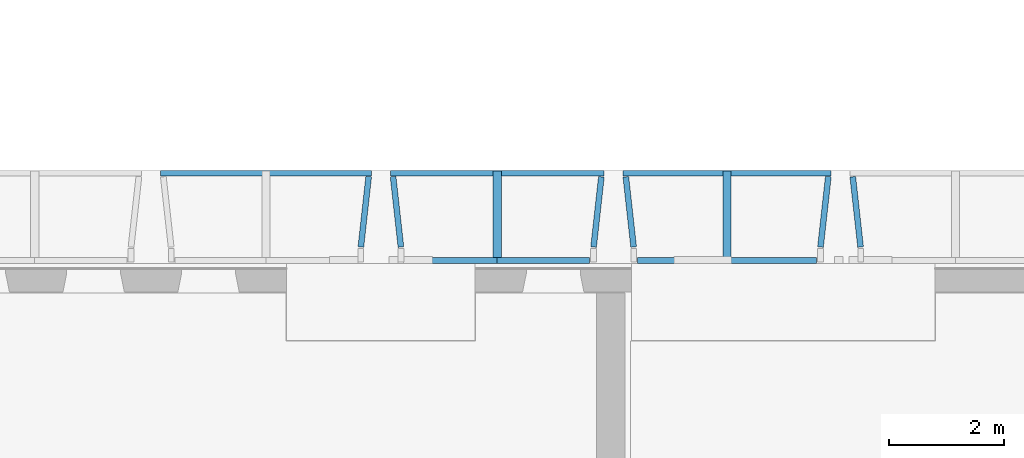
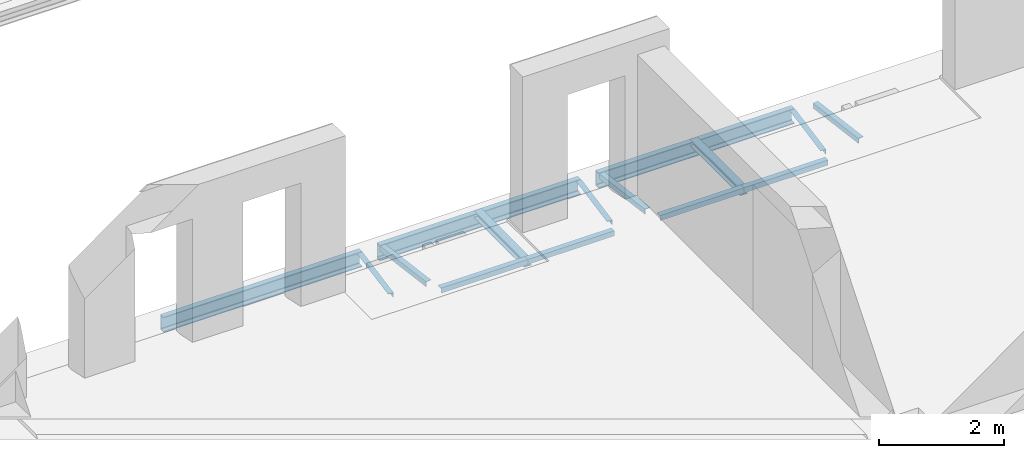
# One storey, part 9 of 27: 15 beams.
"""IFC2X3 building model written with IfcOpenShell, lengths in millimetres."""

from ifc_helpers import new_model, entity, si_unit, converted_unit, derived_unit, direction, frame, frame_2d, origin, place, context, subcontext, project, spatial, polyline, circle_curve, parameter, trimmed, segment, composite_curve, i_section, outline, extrude, material, type_object, element, save


model = new_model("IFC2X3")

# Units and contexts
model_context = context("Model", 3, precision=0.01, world=origin(), true_north=direction((6.12303176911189e-17, 1.0)))
body_context = subcontext(model_context, "Body", "Model", "MODEL_VIEW")
ifc_project = project(units=[si_unit("LENGTHUNIT", "METRE", prefix="MILLI"), si_unit("AREAUNIT", "SQUARE_METRE"), si_unit("VOLUMEUNIT", "CUBIC_METRE"), converted_unit("PLANEANGLEUNIT", "DEGREE", entity("IfcRatioMeasure", 0.0174532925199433), si_unit("PLANEANGLEUNIT", "RADIAN"), dimensions=[0, 0, 0, 0, 0, 0, 0]), si_unit("MASSUNIT", "GRAM", prefix="KILO"), derived_unit("MASSDENSITYUNIT", [(si_unit("MASSUNIT", "GRAM", prefix="KILO"), 1), (si_unit("LENGTHUNIT", "METRE"), -3)]), si_unit("TIMEUNIT", "SECOND"), si_unit("FREQUENCYUNIT", "HERTZ"), si_unit("THERMODYNAMICTEMPERATUREUNIT", "DEGREE_CELSIUS"), derived_unit("THERMALTRANSMITTANCEUNIT", [(si_unit("MASSUNIT", "GRAM", prefix="KILO"), 1), (si_unit("THERMODYNAMICTEMPERATUREUNIT", "KELVIN"), -1), (si_unit("TIMEUNIT", "SECOND"), -3)]), derived_unit("VOLUMETRICFLOWRATEUNIT", [(si_unit("LENGTHUNIT", "METRE"), 3), (si_unit("TIMEUNIT", "SECOND"), -1)]), si_unit("ELECTRICCURRENTUNIT", "AMPERE"), si_unit("ELECTRICVOLTAGEUNIT", "VOLT"), si_unit("POWERUNIT", "WATT"), si_unit("FORCEUNIT", "NEWTON", prefix="KILO"), si_unit("ILLUMINANCEUNIT", "LUX"), si_unit("LUMINOUSFLUXUNIT", "LUMEN"), si_unit("LUMINOUSINTENSITYUNIT", "CANDELA"), derived_unit("USERDEFINED", [(si_unit("MASSUNIT", "GRAM", prefix="KILO"), -1), (si_unit("LENGTHUNIT", "METRE"), -2), (si_unit("TIMEUNIT", "SECOND"), 3), (si_unit("LUMINOUSFLUXUNIT", "LUMEN"), 1)]), derived_unit("LINEARVELOCITYUNIT", [(si_unit("LENGTHUNIT", "METRE"), 1), (si_unit("TIMEUNIT", "SECOND"), -1)]), si_unit("PRESSUREUNIT", "PASCAL"), derived_unit("USERDEFINED", [(si_unit("LENGTHUNIT", "METRE"), -2), (si_unit("MASSUNIT", "GRAM", prefix="KILO"), 1), (si_unit("TIMEUNIT", "SECOND"), -2)])], contexts=[model_context])

# Site, building, storey
site_placement = place(None, origin())
site = spatial("IfcSite", under=ifc_project, at=site_placement, Name="Default", CompositionType="ELEMENT")
building_placement = place(site_placement, origin())
building = spatial("IfcBuilding", under=site, at=building_placement, Name="niet gebruiken", CompositionType="ELEMENT")
storey_placement = place(building_placement, frame((0.0, 0.0, 18000.0)))
storey = spatial("IfcBuildingStorey", under=building, at=storey_placement, Name="05 vijfde verdieping", CompositionType="ELEMENT", Elevation=18000.0)

# Beams
ifc_material = material(Name="NLRS_h2_staal")
beam_type_1 = type_object("IfcBeamType", Name="NLRS_28.11_SF_WPB_stalen ligger HEA_gen:ligger HEA 140", PredefinedType="BEAM")
beam_1_placement = place(storey_placement, frame((145775.0, 34840.0, -1015.0), z_axis=(0.0, 0.0, 1.0), x_axis=(0.0, -1.0, 0.0)))
element("IfcBeam", 1, at=beam_1_placement, inside=storey, type_object=beam_type_1, material=ifc_material, Name="NLRS_28.11_SF_WPB_stalen ligger HEA_gen:ligger HEA 140", ObjectType="NLRS_28.11_SF_WPB_stalen ligger HEA_gen:ligger HEA 140", context=body_context, shape_type="SweptSolid", body=[
    extrude(i_section(OverallWidth=140.000000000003, OverallDepth=133.0, WebThickness=5.49999999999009, FlangeThickness=8.49999999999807, FilletRadius=11.9999999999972, at=frame_2d((-4.33431068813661e-12, -1.73301373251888e-11), x_axis=(0.0, 1.0))), frame((0.0, 0.0, -66.5000000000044), z_axis=(1.0, 0.0, 0.0), x_axis=(0.0, 0.0, -1.0)), (0.0, 0.0, 1.0), 1610.0),
])
beam_2_placement = place(storey_placement, frame((149775.0, 34840.0, -1015.0), z_axis=(0.0, 0.0, 1.0), x_axis=(0.0, -1.0, 0.0)))
element("IfcBeam", 2, at=beam_2_placement, inside=storey, type_object=beam_type_1, material=ifc_material, Name="NLRS_28.11_SF_WPB_stalen ligger HEA_gen:ligger HEA 140", ObjectType="NLRS_28.11_SF_WPB_stalen ligger HEA_gen:ligger HEA 140", context=body_context, shape_type="SweptSolid", body=[
    extrude(i_section(OverallWidth=140.000000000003, OverallDepth=133.0, WebThickness=5.49999999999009, FlangeThickness=8.49999999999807, FilletRadius=11.9999999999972, at=frame_2d((-4.33431068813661e-12, 0.0), x_axis=(0.0, 1.0))), frame((0.0, 0.0, -66.5000000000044), z_axis=(1.0, 0.0, 0.0), x_axis=(0.0, 0.0, -1.0)), (0.0, 0.0, 1.0), 1610.0),
])
beam_type_2 = type_object("IfcBeamType", Name="NLRS_28.11_SF_WPB_stalen ligger UNP_gen:ligger UNP 300", PredefinedType="BEAM")
beam_3_placement = place(storey_placement, frame((139915.0, 34823.0, -1015.0)))
element("IfcBeam", 3, at=beam_3_placement, inside=storey, type_object=beam_type_2, material=ifc_material, Name="NLRS_28.11_SF_WPB_stalen ligger UNP_gen:ligger UNP 300", ObjectType="NLRS_28.11_SF_WPB_stalen ligger UNP_gen:ligger UNP 300", context=body_context, shape_type="SweptSolid", body=[
    extrude(outline(composite_curve([segment(polyline([(-149.93760274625, -45.3333333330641), (-142.655201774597, -45.3333333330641)]), True, "CONTINUOUS"), segment(trimmed(circle_curve(frame_2d((-142.655201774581, -37.3333333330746), x_axis=(0.0, -1.0)), 7.99999999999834), [parameter(0.0)], [parameter(90.0000000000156)], True, "PARAMETER"), True, "CONTINUOUS"), segment(polyline([(-134.655201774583, -37.3333333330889), (-130.390412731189, 28.6666666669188)]), True, "CONTINUOUS"), segment(trimmed(circle_curve(frame_2d((-114.390412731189, 28.6666666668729), x_axis=(-1.0, 0.0)), 16.0000000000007), [parameter(270.0)], [parameter(0.0)], True, "PARAMETER"), False, "CONTINUOUS"), segment(polyline([(-114.390412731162, 44.6666666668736), (113.875860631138, 44.6666666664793)]), True, "CONTINUOUS"), segment(trimmed(circle_curve(frame_2d((113.875860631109, 28.6666666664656), x_axis=(0.0, 1.0)), 16.0000000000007), [parameter(270.0)], [parameter(0.0)], True, "PARAMETER"), False, "CONTINUOUS"), segment(polyline([(129.87586063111, 28.6666666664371), (135.044959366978, -37.3333333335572)]), True, "CONTINUOUS"), segment(trimmed(circle_curve(frame_2d((143.044959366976, -37.3333333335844), x_axis=(-1.0, 0.0)), 7.99999999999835), [parameter(0.0)], [parameter(90.0000000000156)], True, "PARAMETER"), True, "CONTINUOUS"), segment(polyline([(143.044959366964, -45.3333333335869), (150.062397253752, -45.3333333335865)]), True, "CONTINUOUS"), segment(polyline([(150.062397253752, -45.3333333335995), (150.06239725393, 54.6666666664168)]), True, "CONTINUOUS"), segment(polyline([(150.06239725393, 54.6666666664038), (-149.937602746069, 54.6666666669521)]), True, "CONTINUOUS"), segment(polyline([(-149.937602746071, 54.6666666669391), (-149.93760274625, -45.3333333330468)]), True, "CONTINUOUS")], self_intersect=False)), frame((0.0, -27.6666666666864, -149.937602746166), z_axis=(1.0, 0.0, 0.0), x_axis=(0.0, 0.0, -1.0)), (0.0, 0.0, 1.0), 3673.03330011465),
])
beam_4_placement = place(storey_placement, frame((143915.0, 34823.0, -1015.0)))
element("IfcBeam", 4, at=beam_4_placement, inside=storey, type_object=beam_type_2, material=ifc_material, Name="NLRS_28.11_SF_WPB_stalen ligger UNP_gen:ligger UNP 300", ObjectType="NLRS_28.11_SF_WPB_stalen ligger UNP_gen:ligger UNP 300", context=body_context, shape_type="SweptSolid", body=[
    extrude(outline(composite_curve([segment(polyline([(-149.937602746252, -45.3333333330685), (-142.655201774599, -45.3333333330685)]), True, "CONTINUOUS"), segment(trimmed(circle_curve(frame_2d((-142.655201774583, -37.333333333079), x_axis=(0.0, -1.0)), 7.99999999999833), [parameter(0.0)], [parameter(90.0000000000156)], True, "PARAMETER"), True, "CONTINUOUS"), segment(polyline([(-134.655201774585, -37.3333333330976), (-130.390412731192, 28.6666666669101)]), True, "CONTINUOUS"), segment(trimmed(circle_curve(frame_2d((-114.390412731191, 28.6666666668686), x_axis=(-1.0, 0.0)), 16.0000000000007), [parameter(270.0)], [parameter(0.0)], True, "PARAMETER"), False, "CONTINUOUS"), segment(polyline([(-114.390412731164, 44.6666666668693), (113.875860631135, 44.666666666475)]), True, "CONTINUOUS"), segment(trimmed(circle_curve(frame_2d((113.875860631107, 28.6666666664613), x_axis=(0.0, 1.0)), 16.0000000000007), [parameter(270.0)], [parameter(0.0)], True, "PARAMETER"), False, "CONTINUOUS"), segment(polyline([(129.875860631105, 28.6666666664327), (135.044959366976, -37.3333333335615)]), True, "CONTINUOUS"), segment(trimmed(circle_curve(frame_2d((143.044959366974, -37.3333333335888), x_axis=(-1.0, 0.0)), 7.99999999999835), [parameter(0.0)], [parameter(90.0000000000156)], True, "PARAMETER"), True, "CONTINUOUS"), segment(polyline([(143.044959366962, -45.3333333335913), (150.062397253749, -45.3333333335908)]), True, "CONTINUOUS"), segment(polyline([(150.062397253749, -45.3333333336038), (150.062397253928, 54.6666666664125)]), True, "CONTINUOUS"), segment(polyline([(150.062397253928, 54.6666666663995), (-149.937602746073, 54.6666666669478)]), True, "CONTINUOUS"), segment(polyline([(-149.937602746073, 54.6666666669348), (-149.937602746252, -45.3333333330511)]), True, "CONTINUOUS")], self_intersect=False)), frame((0.0, -27.666666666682, -149.937602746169), z_axis=(1.0, 0.0, 0.0), x_axis=(0.0, 0.0, -1.0)), (0.0, 0.0, 1.0), 3720.0),
])
beam_5_placement = place(storey_placement, frame((147965.0, 34823.0, -1015.0)))
element("IfcBeam", 5, at=beam_5_placement, inside=storey, type_object=beam_type_2, material=ifc_material, Name="NLRS_28.11_SF_WPB_stalen ligger UNP_gen:ligger UNP 300", ObjectType="NLRS_28.11_SF_WPB_stalen ligger UNP_gen:ligger UNP 300", context=body_context, shape_type="SweptSolid", body=[
    extrude(outline(composite_curve([segment(polyline([(-149.93760274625, -45.3333333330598), (-142.655201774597, -45.3333333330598)]), True, "CONTINUOUS"), segment(trimmed(circle_curve(frame_2d((-142.655201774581, -37.3333333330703), x_axis=(0.0, -1.0)), 7.99999999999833), [parameter(0.0)], [parameter(90.0000000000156)], True, "PARAMETER"), True, "CONTINUOUS"), segment(polyline([(-134.655201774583, -37.3333333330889), (-130.390412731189, 28.6666666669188)]), True, "CONTINUOUS"), segment(trimmed(circle_curve(frame_2d((-114.390412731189, 28.6666666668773), x_axis=(-1.0, 0.0)), 16.0000000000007), [parameter(270.0)], [parameter(0.0)], True, "PARAMETER"), False, "CONTINUOUS"), segment(polyline([(-114.390412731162, 44.666666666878), (113.875860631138, 44.6666666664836)]), True, "CONTINUOUS"), segment(trimmed(circle_curve(frame_2d((113.875860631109, 28.6666666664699), x_axis=(0.0, 1.0)), 16.0000000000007), [parameter(270.0)], [parameter(0.0)], True, "PARAMETER"), False, "CONTINUOUS"), segment(polyline([(129.875860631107, 28.6666666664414), (135.044959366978, -37.3333333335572)]), True, "CONTINUOUS"), segment(trimmed(circle_curve(frame_2d((143.044959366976, -37.3333333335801), x_axis=(-1.0, 0.0)), 7.99999999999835), [parameter(0.0)], [parameter(90.0000000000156)], True, "PARAMETER"), True, "CONTINUOUS"), segment(polyline([(143.044959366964, -45.3333333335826), (150.062397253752, -45.3333333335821)]), True, "CONTINUOUS"), segment(polyline([(150.062397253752, -45.3333333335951), (150.06239725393, 54.6666666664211)]), True, "CONTINUOUS"), segment(polyline([(150.06239725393, 54.6666666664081), (-149.937602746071, 54.6666666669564)]), True, "CONTINUOUS"), segment(polyline([(-149.937602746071, 54.6666666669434), (-149.93760274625, -45.3333333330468)]), True, "CONTINUOUS")], self_intersect=False)), frame((0.0, -27.6666666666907, -149.937602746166), z_axis=(1.0, 0.0, 0.0), x_axis=(0.0, 0.0, -1.0)), (0.0, 0.0, 1.0), 3620.00000000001),
])
beam_type_3 = type_object("IfcBeamType", Name="NLRS_28.11_SF_WPB_stalen ligger hoekprofiel gelijkzijdig_gen:ligger gelijzijdig hoekprofiel LEQU_100x100x10", PredefinedType="BEAM")
beam_6_placement = place(storey_placement, frame((143487.912001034, 34746.746523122, -1015.0), z_axis=(0.0, 0.0, 1.0), x_axis=(-0.110431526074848, -0.993883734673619, 0.0)))
element("IfcBeam", 6, at=beam_6_placement, inside=storey, type_object=beam_type_3, material=ifc_material, Name="NLRS_28.11_SF_WPB_stalen ligger hoekprofiel gelijkzijdig_gen:ligger gelijzijdig hoekprofiel LEQU_100x100x10", ObjectType="NLRS_28.11_SF_WPB_stalen ligger hoekprofiel gelijkzijdig_gen:ligger gelijzijdig hoekprofiel LEQU_100x100x10", context=body_context, shape_type="SweptSolid", body=[
    extrude(outline(composite_curve([segment(polyline([(-37.7777777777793, -62.222222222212), (-33.777777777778, -62.222222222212)]), True, "CONTINUOUS"), segment(trimmed(circle_curve(frame_2d((-33.7777777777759, -56.2222222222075), x_axis=(0.0, -1.0)), 5.99999999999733), [parameter(0.0)], [parameter(90.0000000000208)], True, "PARAMETER"), True, "CONTINUOUS"), segment(polyline([(-27.7777777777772, -56.2222222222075), (-27.7777777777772, 15.7777777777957)]), True, "CONTINUOUS"), segment(trimmed(circle_curve(frame_2d((-15.7777777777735, 15.7777777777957), x_axis=(-1.0, 0.0)), 12.000000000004), [parameter(270.000000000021)], [parameter(0.0)], True, "PARAMETER"), False, "CONTINUOUS"), segment(polyline([(-15.7777777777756, 27.7777777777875), (56.2222222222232, 27.7777777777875)]), True, "CONTINUOUS"), segment(trimmed(circle_curve(frame_2d((56.2222222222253, 33.7777777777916), x_axis=(0.0, -1.0)), 5.99999999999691), [parameter(0.0)], [parameter(90.0000000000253)], True, "PARAMETER"), True, "CONTINUOUS"), segment(polyline([(62.2222222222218, 33.7777777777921), (62.2222222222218, 37.7777777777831)]), True, "CONTINUOUS"), segment(polyline([(62.222222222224, 37.7777777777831), (-37.7777777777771, 37.7777777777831)]), True, "CONTINUOUS"), segment(polyline([(-37.7777777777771, 37.7777777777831), (-37.7777777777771, -62.222222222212)]), True, "CONTINUOUS")], self_intersect=False)), frame((0.0, 62.2222222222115, -37.7777777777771), z_axis=(1.0, 0.0, 0.0), x_axis=(0.0, 0.0, -1.0)), (0.0, 0.0, 1.0), 1235.00000000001),
])
beam_7_placement = place(storey_placement, frame((144170.0, 33330.0, -1015.0)))
element("IfcBeam", 7, at=beam_7_placement, inside=storey, type_object=beam_type_3, material=ifc_material, Name="NLRS_28.11_SF_WPB_stalen ligger hoekprofiel gelijkzijdig_gen:ligger gelijzijdig hoekprofiel LEQU_100x100x10", ObjectType="NLRS_28.11_SF_WPB_stalen ligger hoekprofiel gelijkzijdig_gen:ligger gelijzijdig hoekprofiel LEQU_100x100x10", context=body_context, shape_type="SweptSolid", body=[
    extrude(outline(composite_curve([segment(polyline([(-37.7777777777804, -37.777777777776), (62.2222222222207, -37.777777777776)]), True, "CONTINUOUS"), segment(polyline([(62.2222222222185, -37.7777777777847), (62.2222222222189, -33.7777777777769)]), True, "CONTINUOUS"), segment(trimmed(circle_curve(frame_2d((56.2222222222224, -33.7777777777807), x_axis=(1.0, 0.0)), 5.99999999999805), [parameter(0.0)], [parameter(90.0000000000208)], True, "PARAMETER"), True, "CONTINUOUS"), segment(polyline([(56.2222222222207, -27.7777777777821), (-15.777777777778, -27.7777777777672)]), True, "CONTINUOUS"), segment(trimmed(circle_curve(frame_2d((-15.7777777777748, -15.7777777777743), x_axis=(0.0, -1.0)), 12.0000000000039), [parameter(270.000000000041)], [parameter(0.0)], True, "PARAMETER"), False, "CONTINUOUS"), segment(polyline([(-27.7777777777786, -15.7777777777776), (-27.7777777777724, 56.2222222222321)]), True, "CONTINUOUS"), segment(trimmed(circle_curve(frame_2d((-33.777777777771, 56.2222222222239), x_axis=(1.0, 0.0)), 5.99999999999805), [parameter(0.0)], [parameter(90.0000000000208)], True, "PARAMETER"), True, "CONTINUOUS"), segment(polyline([(-33.7777777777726, 62.2222222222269), (-37.7777777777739, 62.2222222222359)]), True, "CONTINUOUS"), segment(polyline([(-37.7777777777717, 62.2222222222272), (-37.7777777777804, -37.777777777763)]), True, "CONTINUOUS")], self_intersect=False)), frame((0.0, -62.2222222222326, -37.7777777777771), z_axis=(1.0, 0.0, 0.0), x_axis=(0.0, 0.0, -1.0)), (0.0, 0.0, 1.0), 1604.99999939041),
])
beam_8_placement = place(storey_placement, frame((144012.087998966, 34746.746523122, -1015.0), z_axis=(0.0, 0.0, 1.0), x_axis=(0.110431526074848, -0.993883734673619, 0.0)))
element("IfcBeam", 8, at=beam_8_placement, inside=storey, type_object=beam_type_3, material=ifc_material, Name="NLRS_28.11_SF_WPB_stalen ligger hoekprofiel gelijkzijdig_gen:ligger gelijzijdig hoekprofiel LEQU_100x100x10", ObjectType="NLRS_28.11_SF_WPB_stalen ligger hoekprofiel gelijkzijdig_gen:ligger gelijzijdig hoekprofiel LEQU_100x100x10", context=body_context, shape_type="SweptSolid", body=[
    extrude(outline(composite_curve([segment(polyline([(-37.7777777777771, -37.7777777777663), (62.222222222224, -37.7777777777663)]), True, "CONTINUOUS"), segment(polyline([(62.2222222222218, -37.7777777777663), (62.2222222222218, -33.7777777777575)]), True, "CONTINUOUS"), segment(trimmed(circle_curve(frame_2d((56.2222222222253, -33.7777777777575), x_axis=(1.0, 0.0)), 5.99999999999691), [parameter(0.0)], [parameter(90.0000000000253)], True, "PARAMETER"), True, "CONTINUOUS"), segment(polyline([(56.2222222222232, -27.7777777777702), (-15.7777777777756, -27.7777777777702)]), True, "CONTINUOUS"), segment(trimmed(circle_curve(frame_2d((-15.7777777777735, -15.777777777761), x_axis=(0.0, -1.0)), 12.000000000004), [parameter(270.000000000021)], [parameter(0.0)], True, "PARAMETER"), False, "CONTINUOUS"), segment(polyline([(-27.7777777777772, -15.777777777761), (-27.7777777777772, 56.2222222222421)]), True, "CONTINUOUS"), segment(trimmed(circle_curve(frame_2d((-33.7777777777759, 56.2222222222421), x_axis=(1.0, 0.0)), 5.99999999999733), [parameter(0.0)], [parameter(90.0000000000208)], True, "PARAMETER"), True, "CONTINUOUS"), segment(polyline([(-33.777777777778, 62.2222222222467), (-37.7777777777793, 62.2222222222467)]), True, "CONTINUOUS"), segment(polyline([(-37.7777777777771, 62.2222222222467), (-37.7777777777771, -37.7777777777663)]), True, "CONTINUOUS")], self_intersect=False)), frame((0.0, -62.2222222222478, -37.7777777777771), z_axis=(1.0, 0.0, 0.0), x_axis=(0.0, 0.0, -1.0)), (0.0, 0.0, 1.0), 1235.00000000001),
])
beam_9_placement = place(storey_placement, frame((147537.359843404, 34741.7771044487, -1015.0), z_axis=(0.0, 0.0, 1.0), x_axis=(-0.110431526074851, -0.993883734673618, 0.0)))
element("IfcBeam", 9, at=beam_9_placement, inside=storey, type_object=beam_type_3, material=ifc_material, Name="NLRS_28.11_SF_WPB_stalen ligger hoekprofiel gelijkzijdig_gen:ligger gelijzijdig hoekprofiel LEQU_100x100x10", ObjectType="NLRS_28.11_SF_WPB_stalen ligger hoekprofiel gelijkzijdig_gen:ligger gelijzijdig hoekprofiel LEQU_100x100x10", context=body_context, shape_type="SweptSolid", body=[
    extrude(outline(composite_curve([segment(polyline([(-37.7777777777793, -62.2222222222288), (-33.777777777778, -62.2222222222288)]), True, "CONTINUOUS"), segment(trimmed(circle_curve(frame_2d((-33.7777777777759, -56.2222222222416), x_axis=(0.0, -1.0)), 5.99999999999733), [parameter(0.0)], [parameter(90.0000000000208)], True, "PARAMETER"), True, "CONTINUOUS"), segment(polyline([(-27.7777777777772, -56.2222222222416), (-27.7777777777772, 15.7777777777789)]), True, "CONTINUOUS"), segment(trimmed(circle_curve(frame_2d((-15.7777777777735, 15.7777777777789), x_axis=(-1.0, 0.0)), 12.0000000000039), [parameter(270.000000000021)], [parameter(0.0)], True, "PARAMETER"), False, "CONTINUOUS"), segment(polyline([(-15.7777777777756, 27.7777777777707), (56.2222222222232, 27.7777777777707)]), True, "CONTINUOUS"), segment(trimmed(circle_curve(frame_2d((56.2222222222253, 33.7777777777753), x_axis=(0.0, -1.0)), 5.99999999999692), [parameter(0.0)], [parameter(90.0000000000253)], True, "PARAMETER"), True, "CONTINUOUS"), segment(polyline([(62.2222222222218, 33.7777777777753), (62.2222222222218, 37.7777777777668)]), True, "CONTINUOUS"), segment(polyline([(62.222222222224, 37.7777777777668), (-37.7777777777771, 37.7777777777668)]), True, "CONTINUOUS"), segment(polyline([(-37.7777777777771, 37.7777777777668), (-37.7777777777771, -62.2222222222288)]), True, "CONTINUOUS")], self_intersect=False)), frame((0.0, 62.222222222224, -37.7777777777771), z_axis=(1.0, 0.0, 0.0), x_axis=(0.0, 0.0, -1.0)), (0.0, 0.0, 1.0), 1230.0),
])
beam_10_placement = place(storey_placement, frame((145775.0, 33330.0, -1015.0)))
element("IfcBeam", 10, at=beam_10_placement, inside=storey, type_object=beam_type_3, material=ifc_material, Name="NLRS_28.11_SF_WPB_stalen ligger hoekprofiel gelijkzijdig_gen:ligger gelijzijdig hoekprofiel LEQU_100x100x10", ObjectType="NLRS_28.11_SF_WPB_stalen ligger hoekprofiel gelijkzijdig_gen:ligger gelijzijdig hoekprofiel LEQU_100x100x10", context=body_context, shape_type="SweptSolid", body=[
    extrude(outline(composite_curve([segment(polyline([(-37.7777777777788, -37.7777777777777), (62.2222222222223, -37.7777777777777)]), True, "CONTINUOUS"), segment(polyline([(62.2222222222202, -37.777777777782), (62.2222222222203, -33.7777777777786)]), True, "CONTINUOUS"), segment(trimmed(circle_curve(frame_2d((56.2222222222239, -33.7777777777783), x_axis=(1.0, 0.0)), 5.99999999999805), [parameter(0.0)], [parameter(90.0000000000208)], True, "PARAMETER"), True, "CONTINUOUS"), segment(polyline([(56.222222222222, -27.7777777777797), (-15.7777777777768, -27.7777777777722)]), True, "CONTINUOUS"), segment(trimmed(circle_curve(frame_2d((-15.7777777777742, -15.7777777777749), x_axis=(0.0, -1.0)), 12.0000000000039), [parameter(270.000000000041)], [parameter(0.0)], True, "PARAMETER"), False, "CONTINUOUS"), segment(polyline([(-27.7777777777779, -15.7777777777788), (-27.7777777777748, 56.2222222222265)]), True, "CONTINUOUS"), segment(trimmed(circle_curve(frame_2d((-33.7777777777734, 56.2222222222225), x_axis=(1.0, 0.0)), 5.99999999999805), [parameter(0.0)], [parameter(90.0000000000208)], True, "PARAMETER"), True, "CONTINUOUS"), segment(polyline([(-33.7777777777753, 62.2222222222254), (-37.7777777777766, 62.2222222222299)]), True, "CONTINUOUS"), segment(polyline([(-37.7777777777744, 62.2222222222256), (-37.7777777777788, -37.777777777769)]), True, "CONTINUOUS")], self_intersect=False)), frame((6.09590401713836e-07, -62.2222222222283, -37.7777777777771), z_axis=(1.0, 0.0, 0.0), x_axis=(0.0, 0.0, -1.0)), (0.0, 0.0, 1.0), 1604.99999939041),
])
beam_11_placement = place(storey_placement, frame((152012.640156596, 34741.7771044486, -1015.0), z_axis=(0.0, 0.0, 1.0), x_axis=(0.110431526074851, -0.993883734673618, 0.0)))
element("IfcBeam", 11, at=beam_11_placement, inside=storey, type_object=beam_type_3, material=ifc_material, Name="NLRS_28.11_SF_WPB_stalen ligger hoekprofiel gelijkzijdig_gen:ligger gelijzijdig hoekprofiel LEQU_100x100x10", ObjectType="NLRS_28.11_SF_WPB_stalen ligger hoekprofiel gelijkzijdig_gen:ligger gelijzijdig hoekprofiel LEQU_100x100x10", context=body_context, shape_type="SweptSolid", body=[
    extrude(outline(composite_curve([segment(polyline([(-37.7777777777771, -37.7777777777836), (62.222222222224, -37.7777777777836)]), True, "CONTINUOUS"), segment(polyline([(62.2222222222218, -37.7777777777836), (62.2222222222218, -33.7777777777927)]), True, "CONTINUOUS"), segment(trimmed(circle_curve(frame_2d((56.2222222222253, -33.7777777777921), x_axis=(1.0, 0.0)), 5.99999999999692), [parameter(0.0)], [parameter(90.0000000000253)], True, "PARAMETER"), True, "CONTINUOUS"), segment(polyline([(56.2222222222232, -27.7777777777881), (-15.7777777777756, -27.7777777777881)]), True, "CONTINUOUS"), segment(trimmed(circle_curve(frame_2d((-15.7777777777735, -15.7777777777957), x_axis=(0.0, -1.0)), 12.0000000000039), [parameter(270.000000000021)], [parameter(0.0)], True, "PARAMETER"), False, "CONTINUOUS"), segment(polyline([(-27.7777777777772, -15.7777777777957), (-27.7777777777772, 56.2222222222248)]), True, "CONTINUOUS"), segment(trimmed(circle_curve(frame_2d((-33.7777777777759, 56.2222222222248), x_axis=(1.0, 0.0)), 5.99999999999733), [parameter(0.0)], [parameter(90.0000000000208)], True, "PARAMETER"), True, "CONTINUOUS"), segment(polyline([(-33.777777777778, 62.222222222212), (-37.7777777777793, 62.222222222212)]), True, "CONTINUOUS"), segment(polyline([(-37.7777777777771, 62.222222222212), (-37.7777777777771, -37.7777777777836)]), True, "CONTINUOUS")], self_intersect=False)), frame((0.0, -62.2222222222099, -37.7777777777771), z_axis=(1.0, 0.0, 0.0), x_axis=(0.0, 0.0, -1.0)), (0.0, 0.0, 1.0), 1230.0),
])
beam_12_placement = place(storey_placement, frame((148220.0, 33330.0, -1015.0)))
element("IfcBeam", 12, at=beam_12_placement, inside=storey, type_object=beam_type_3, material=ifc_material, Name="NLRS_28.11_SF_WPB_stalen ligger hoekprofiel gelijkzijdig_gen:ligger gelijzijdig hoekprofiel LEQU_100x100x10", ObjectType="NLRS_28.11_SF_WPB_stalen ligger hoekprofiel gelijkzijdig_gen:ligger gelijzijdig hoekprofiel LEQU_100x100x10", context=body_context, shape_type="SweptSolid", body=[
    extrude(outline(composite_curve([segment(polyline([(-37.7777777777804, -37.777777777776), (62.2222222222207, -37.777777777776)]), True, "CONTINUOUS"), segment(polyline([(62.2222222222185, -37.7777777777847), (62.2222222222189, -33.7777777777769)]), True, "CONTINUOUS"), segment(trimmed(circle_curve(frame_2d((56.2222222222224, -33.7777777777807), x_axis=(1.0, 0.0)), 5.99999999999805), [parameter(0.0)], [parameter(90.0000000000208)], True, "PARAMETER"), True, "CONTINUOUS"), segment(polyline([(56.2222222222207, -27.7777777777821), (-15.777777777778, -27.7777777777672)]), True, "CONTINUOUS"), segment(trimmed(circle_curve(frame_2d((-15.7777777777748, -15.7777777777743), x_axis=(0.0, -1.0)), 12.0000000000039), [parameter(270.000000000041)], [parameter(0.0)], True, "PARAMETER"), False, "CONTINUOUS"), segment(polyline([(-27.7777777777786, -15.7777777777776), (-27.7777777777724, 56.2222222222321)]), True, "CONTINUOUS"), segment(trimmed(circle_curve(frame_2d((-33.777777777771, 56.2222222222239), x_axis=(1.0, 0.0)), 5.99999999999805), [parameter(0.0)], [parameter(90.0000000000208)], True, "PARAMETER"), True, "CONTINUOUS"), segment(polyline([(-33.7777777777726, 62.2222222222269), (-37.7777777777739, 62.2222222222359)]), True, "CONTINUOUS"), segment(polyline([(-37.7777777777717, 62.2222222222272), (-37.7777777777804, -37.777777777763)]), True, "CONTINUOUS")], self_intersect=False)), frame((0.0, -62.2222222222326, -37.7777777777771), z_axis=(1.0, 0.0, 0.0), x_axis=(0.0, 0.0, -1.0)), (0.0, 0.0, 1.0), 1554.9999993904),
])
beam_13_placement = place(storey_placement, frame((148062.640156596, 34741.7771044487, -1015.0), z_axis=(0.0, 0.0, 1.0), x_axis=(0.110431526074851, -0.993883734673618, 0.0)))
element("IfcBeam", 13, at=beam_13_placement, inside=storey, type_object=beam_type_3, material=ifc_material, Name="NLRS_28.11_SF_WPB_stalen ligger hoekprofiel gelijkzijdig_gen:ligger gelijzijdig hoekprofiel LEQU_100x100x10", ObjectType="NLRS_28.11_SF_WPB_stalen ligger hoekprofiel gelijkzijdig_gen:ligger gelijzijdig hoekprofiel LEQU_100x100x10", context=body_context, shape_type="SweptSolid", body=[
    extrude(outline(composite_curve([segment(polyline([(-37.7777777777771, -37.7777777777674), (62.222222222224, -37.7777777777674)]), True, "CONTINUOUS"), segment(polyline([(62.2222222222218, -37.7777777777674), (62.2222222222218, -33.7777777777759)]), True, "CONTINUOUS"), segment(trimmed(circle_curve(frame_2d((56.2222222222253, -33.7777777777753), x_axis=(1.0, 0.0)), 5.99999999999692), [parameter(0.0)], [parameter(90.0000000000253)], True, "PARAMETER"), True, "CONTINUOUS"), segment(polyline([(56.2222222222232, -27.7777777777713), (-15.7777777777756, -27.7777777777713)]), True, "CONTINUOUS"), segment(trimmed(circle_curve(frame_2d((-15.7777777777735, -15.7777777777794), x_axis=(0.0, -1.0)), 12.0000000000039), [parameter(270.000000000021)], [parameter(0.0)], True, "PARAMETER"), False, "CONTINUOUS"), segment(polyline([(-27.7777777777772, -15.7777777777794), (-27.7777777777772, 56.222222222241)]), True, "CONTINUOUS"), segment(trimmed(circle_curve(frame_2d((-33.7777777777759, 56.222222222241), x_axis=(1.0, 0.0)), 5.99999999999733), [parameter(0.0)], [parameter(90.0000000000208)], True, "PARAMETER"), True, "CONTINUOUS"), segment(polyline([(-33.777777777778, 62.2222222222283), (-37.7777777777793, 62.2222222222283)]), True, "CONTINUOUS"), segment(polyline([(-37.7777777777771, 62.2222222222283), (-37.7777777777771, -37.7777777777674)]), True, "CONTINUOUS")], self_intersect=False)), frame((0.0, -62.222222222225, -37.7777777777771), z_axis=(1.0, 0.0, 0.0), x_axis=(0.0, 0.0, -1.0)), (0.0, 0.0, 1.0), 1230.0),
])
beam_14_placement = place(storey_placement, frame((151487.912001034, 34746.746523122, -1015.0), z_axis=(0.0, 0.0, 1.0), x_axis=(-0.110431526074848, -0.993883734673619, 0.0)))
element("IfcBeam", 14, at=beam_14_placement, inside=storey, type_object=beam_type_3, material=ifc_material, Name="NLRS_28.11_SF_WPB_stalen ligger hoekprofiel gelijkzijdig_gen:ligger gelijzijdig hoekprofiel LEQU_100x100x10", ObjectType="NLRS_28.11_SF_WPB_stalen ligger hoekprofiel gelijkzijdig_gen:ligger gelijzijdig hoekprofiel LEQU_100x100x10", context=body_context, shape_type="SweptSolid", body=[
    extrude(outline(composite_curve([segment(polyline([(-37.7777777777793, -62.2222222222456), (-33.777777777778, -62.2222222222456)]), True, "CONTINUOUS"), segment(trimmed(circle_curve(frame_2d((-33.7777777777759, -56.222222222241), x_axis=(0.0, -1.0)), 5.99999999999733), [parameter(0.0)], [parameter(90.0000000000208)], True, "PARAMETER"), True, "CONTINUOUS"), segment(polyline([(-27.7777777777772, -56.222222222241), (-27.7777777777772, 15.7777777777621)]), True, "CONTINUOUS"), segment(trimmed(circle_curve(frame_2d((-15.7777777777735, 15.7777777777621), x_axis=(-1.0, 0.0)), 12.000000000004), [parameter(270.000000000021)], [parameter(0.0)], True, "PARAMETER"), False, "CONTINUOUS"), segment(polyline([(-15.7777777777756, 27.7777777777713), (56.2222222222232, 27.7777777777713)]), True, "CONTINUOUS"), segment(trimmed(circle_curve(frame_2d((56.2222222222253, 33.7777777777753), x_axis=(0.0, -1.0)), 5.99999999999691), [parameter(0.0)], [parameter(90.0000000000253)], True, "PARAMETER"), True, "CONTINUOUS"), segment(polyline([(62.2222222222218, 33.7777777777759), (62.2222222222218, 37.7777777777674)]), True, "CONTINUOUS"), segment(polyline([(62.222222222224, 37.7777777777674), (-37.7777777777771, 37.7777777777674)]), True, "CONTINUOUS"), segment(polyline([(-37.7777777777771, 37.7777777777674), (-37.7777777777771, -62.2222222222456)]), True, "CONTINUOUS")], self_intersect=False)), frame((0.0, 62.2222222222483, -37.7777777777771), z_axis=(1.0, 0.0, 0.0), x_axis=(0.0, 0.0, -1.0)), (0.0, 0.0, 1.0), 1235.00000000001),
])
beam_15_placement = place(storey_placement, frame((149775.0, 33330.0, -1015.0)))
element("IfcBeam", 15, at=beam_15_placement, inside=storey, type_object=beam_type_3, material=ifc_material, Name="NLRS_28.11_SF_WPB_stalen ligger hoekprofiel gelijkzijdig_gen:ligger gelijzijdig hoekprofiel LEQU_100x100x10", ObjectType="NLRS_28.11_SF_WPB_stalen ligger hoekprofiel gelijkzijdig_gen:ligger gelijzijdig hoekprofiel LEQU_100x100x10", context=body_context, shape_type="SweptSolid", body=[
    extrude(outline(composite_curve([segment(polyline([(-37.7777777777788, -37.7777777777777), (62.2222222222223, -37.7777777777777)]), True, "CONTINUOUS"), segment(polyline([(62.2222222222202, -37.777777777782), (62.2222222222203, -33.7777777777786)]), True, "CONTINUOUS"), segment(trimmed(circle_curve(frame_2d((56.2222222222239, -33.7777777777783), x_axis=(1.0, 0.0)), 5.99999999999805), [parameter(0.0)], [parameter(90.0000000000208)], True, "PARAMETER"), True, "CONTINUOUS"), segment(polyline([(56.222222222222, -27.7777777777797), (-15.7777777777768, -27.7777777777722)]), True, "CONTINUOUS"), segment(trimmed(circle_curve(frame_2d((-15.7777777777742, -15.7777777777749), x_axis=(0.0, -1.0)), 12.0000000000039), [parameter(270.000000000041)], [parameter(0.0)], True, "PARAMETER"), False, "CONTINUOUS"), segment(polyline([(-27.7777777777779, -15.7777777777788), (-27.7777777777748, 56.2222222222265)]), True, "CONTINUOUS"), segment(trimmed(circle_curve(frame_2d((-33.7777777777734, 56.2222222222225), x_axis=(1.0, 0.0)), 5.99999999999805), [parameter(0.0)], [parameter(90.0000000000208)], True, "PARAMETER"), True, "CONTINUOUS"), segment(polyline([(-33.7777777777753, 62.2222222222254), (-37.7777777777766, 62.2222222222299)]), True, "CONTINUOUS"), segment(polyline([(-37.7777777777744, 62.2222222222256), (-37.7777777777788, -37.777777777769)]), True, "CONTINUOUS")], self_intersect=False)), frame((6.09604840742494e-07, -62.2222222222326, -37.7777777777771), z_axis=(1.0, 0.0, 0.0), x_axis=(0.0, 0.0, -1.0)), (0.0, 0.0, 1.0), 1554.9999993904),
])

save(model, "model.ifc")
